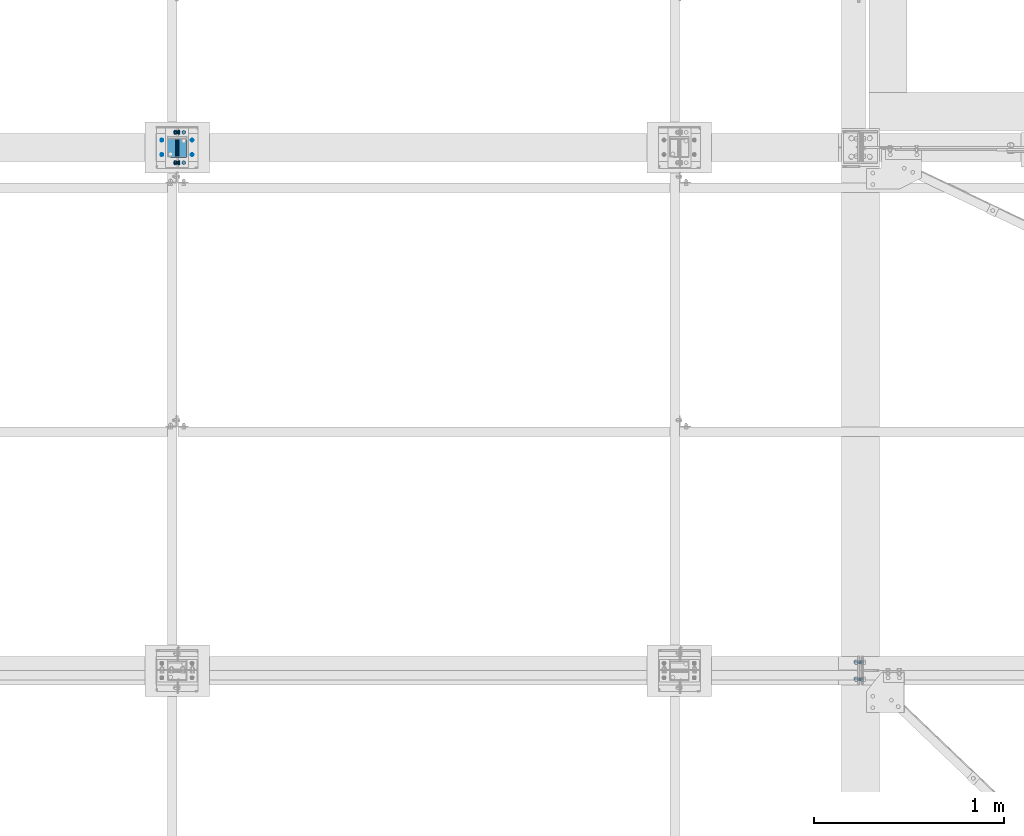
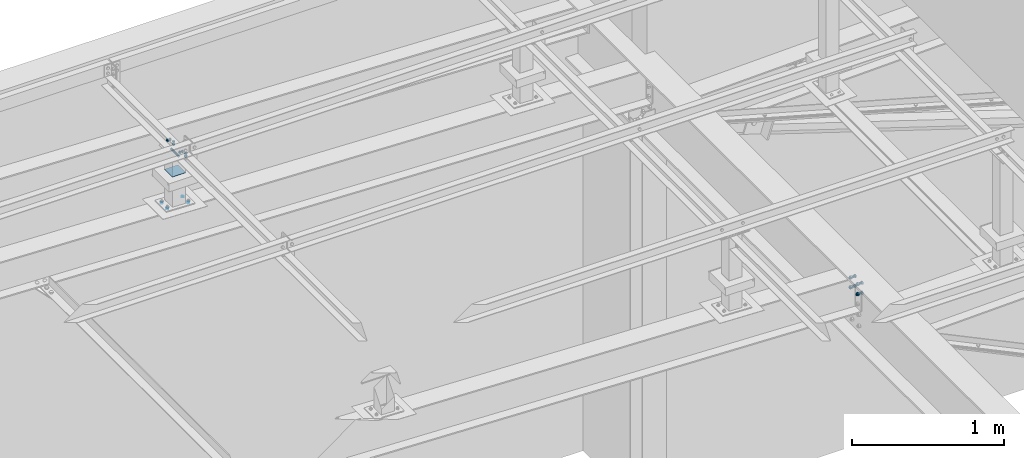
# One storey, part 216 of 3134: 7 mechanical fasteners, 4 elements without a shape of their own.
"""IFC2X3 building model written with IfcOpenShell, lengths in millimetres."""

from ifc_helpers import new_model, si_unit, frame, origin_with_axes, place, context, subcontext, project, spatial, faceted_brep, source, transform, mapped, material, type_object, element, aggregate, save


model = new_model("IFC2X3")

# Units and contexts
model_context = context("Model", 3, precision=1e-05, world=origin_with_axes())
body_context = subcontext(model_context, "Body", "Model", "MODEL_VIEW")
ifc_project = project(units=[si_unit("LENGTHUNIT", "METRE", prefix="MILLI"), si_unit("AREAUNIT", "SQUARE_METRE"), si_unit("VOLUMEUNIT", "CUBIC_METRE"), si_unit("MASSUNIT", "GRAM", prefix="KILO"), si_unit("TIMEUNIT", "SECOND"), si_unit("PLANEANGLEUNIT", "RADIAN"), si_unit("SOLIDANGLEUNIT", "STERADIAN"), si_unit("THERMODYNAMICTEMPERATUREUNIT", "DEGREE_CELSIUS"), si_unit("LUMINOUSINTENSITYUNIT", "LUMEN")], contexts=[model_context])

# Site, building, storey
site_placement = place(None, origin_with_axes())
site = spatial("IfcSite", under=ifc_project, at=site_placement, CompositionType="ELEMENT")
building_placement = place(site_placement, origin_with_axes())
building = spatial("IfcBuilding", under=site, at=building_placement, Name="Undefined", CompositionType="ELEMENT")
storey_placement = place(building_placement, origin_with_axes())
storey = spatial("IfcBuildingStorey", under=building, at=storey_placement, Name="Undefined", CompositionType="ELEMENT", Elevation=0.0)

# Assembly, mechanical fastener
assembly_1_placement = place(storey_placement, origin_with_axes())
assembly_1 = element("IfcElementAssembly", 1, at=assembly_1_placement, inside=storey, AssemblyPlace="NOTDEFINED", PredefinedType="RIGID_FRAME")
ifc_material_1 = material(Name="8.8")
mechanical_fastener_type = type_object("IfcMechanicalFastenerType", Name="Bolt assembly")
shared_shape_1 = source(origin_with_axes(), body_context, "Body", "Brep", [
    faceted_brep([(10.9696551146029, -14.0, 0.0), (5.48482755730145, -14.0, 9.5), (-5.48482755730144, -14.0, 9.5), (-10.9696551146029, -14.0, 1.34339530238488e-15), (-5.48482755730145, -14.0, -9.5), (5.48482755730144, -14.0, -9.50000000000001), (5.48482755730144, -6.0, -9.50000000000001), (-5.48482755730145, -6.0, -9.5), (-10.9696551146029, -6.0, 1.34339530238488e-15), (-5.48482755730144, -6.0, 9.5), (5.48482755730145, -6.0, 9.5), (10.9696551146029, -6.0, 0.0), (6.0, -6.0, 0.0), (5.19615242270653, -6.0, 3.00000000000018), (2.99999999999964, -6.0, 5.19615242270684), (-6.21801588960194e-13, -6.0, 6.0), (-3.00000000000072, -6.0, 5.19615242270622), (-5.19615242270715, -6.0, 2.9999999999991), (-6.0, -6.0, -1.24360317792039e-12), (-5.19615242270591, -6.0, -3.00000000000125), (-2.99999999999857, -6.0, -5.19615242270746), (1.85874342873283e-12, -6.0, -6.0), (3.00000000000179, -6.0, -5.1961524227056), (5.19615242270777, -6.0, -2.99999999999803), (5.19615242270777, 24.0, -2.99999999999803), (3.00000000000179, 24.0, -5.1961524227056), (1.85874342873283e-12, 24.0, -6.0), (-2.99999999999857, 24.0, -5.19615242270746), (-5.19615242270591, 24.0, -3.00000000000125), (-6.0, 24.0, -1.24360317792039e-12), (-5.19615242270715, 24.0, 2.9999999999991), (-3.00000000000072, 24.0, 5.19615242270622), (-6.21801588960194e-13, 24.0, 6.0), (2.99999999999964, 24.0, 5.19615242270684), (5.19615242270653, 24.0, 3.00000000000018), (6.0, 24.0, 0.0), (10.9696551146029, 6.00000000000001, 0.0), (5.48482755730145, 6.00000000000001, 9.5), (-5.48482755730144, 6.00000000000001, 9.5), (-10.9696551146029, 6.00000000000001, 1.34339530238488e-15), (-5.48482755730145, 6.00000000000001, -9.5), (5.48482755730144, 6.00000000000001, -9.50000000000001), (5.48482755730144, 16.0, -9.50000000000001), (-5.48482755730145, 16.0, -9.5), (-10.9696551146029, 16.0, 1.34339530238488e-15), (-5.48482755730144, 16.0, 9.5), (5.48482755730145, 16.0, 9.5), (10.9696551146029, 16.0, 0.0)], [[[0, 1, 2, 3, 4, 5]], [[6, 7, 8, 9, 10, 11]], [[0, 11, 10, 1]], [[1, 10, 9, 2]], [[2, 9, 8, 3]], [[3, 8, 7, 4]], [[4, 7, 6, 5]], [[5, 6, 11, 0]], [[12, 13, 14, 15, 16, 17, 18, 19, 20, 21, 22, 23]], [[24, 25, 26, 27, 28, 29, 30, 31, 32, 33, 34, 35]], [[12, 35, 34, 13]], [[13, 34, 33, 14]], [[14, 33, 32, 15]], [[15, 32, 31, 16]], [[16, 31, 30, 17]], [[17, 30, 29, 18]], [[18, 29, 28, 19]], [[19, 28, 27, 20]], [[20, 27, 26, 21]], [[21, 26, 25, 22]], [[22, 25, 24, 23]], [[23, 24, 35, 12]], [[36, 37, 38, 39, 40, 41]], [[42, 43, 44, 45, 46, 47]], [[36, 47, 46, 37]], [[37, 46, 45, 38]], [[38, 45, 44, 39]], [[39, 44, 43, 40]], [[40, 43, 42, 41]], [[41, 42, 47, 36]]]),
    faceted_brep([(7.0, -5.9, 0.0), (6.06217782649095, -5.9, 3.50000000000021), (3.49999999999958, -5.9, 6.06217782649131), (-7.25435187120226e-13, -5.9, 7.0), (-3.50000000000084, -5.9, 6.06217782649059), (-6.06217782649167, -5.9, 3.49999999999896), (-7.0, -5.9, -1.45087037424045e-12), (-6.06217782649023, -5.9, -3.50000000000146), (-3.49999999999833, -5.9, -6.06217782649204), (2.1685340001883e-12, -5.9, -7.0), (3.50000000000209, -5.9, -6.06217782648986), (6.0621778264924, -5.9, -3.4999999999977), (6.0621778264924, 0.0999999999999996, -3.4999999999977), (3.50000000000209, 0.0999999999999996, -6.06217782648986), (2.1685340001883e-12, 0.0999999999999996, -7.0), (-3.49999999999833, 0.0999999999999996, -6.06217782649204), (-6.06217782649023, 0.0999999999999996, -3.50000000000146), (-7.0, 0.0999999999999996, -1.45087037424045e-12), (-6.06217782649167, 0.0999999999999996, 3.49999999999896), (-3.50000000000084, 0.0999999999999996, 6.06217782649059), (-7.25435187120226e-13, 0.0999999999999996, 7.0), (3.49999999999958, 0.0999999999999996, 6.06217782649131), (6.06217782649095, 0.0999999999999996, 3.50000000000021), (7.0, 0.0999999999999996, 0.0), (7.0, -0.1, 0.0), (6.06217782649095, -0.1, 3.50000000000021), (3.49999999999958, -0.1, 6.06217782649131), (-7.25435187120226e-13, -0.1, 7.0), (-3.50000000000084, -0.1, 6.06217782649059), (-6.06217782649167, -0.1, 3.49999999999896), (-7.0, -0.1, -1.45087037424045e-12), (-6.06217782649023, -0.1, -3.50000000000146), (-3.49999999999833, -0.1, -6.06217782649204), (2.1685340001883e-12, -0.1, -7.0), (3.50000000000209, -0.1, -6.06217782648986), (6.0621778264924, -0.1, -3.4999999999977), (6.0621778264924, 6.00000000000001, -3.4999999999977), (3.50000000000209, 6.00000000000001, -6.06217782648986), (2.1685340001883e-12, 6.00000000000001, -7.0), (-3.49999999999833, 6.00000000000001, -6.06217782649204), (-6.06217782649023, 6.00000000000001, -3.50000000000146), (-7.0, 6.00000000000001, -1.45087037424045e-12), (-6.06217782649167, 6.00000000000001, 3.49999999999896), (-3.50000000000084, 6.00000000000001, 6.06217782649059), (-7.25435187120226e-13, 6.00000000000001, 7.0), (3.49999999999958, 6.00000000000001, 6.06217782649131), (6.06217782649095, 6.00000000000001, 3.50000000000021), (7.0, 6.00000000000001, 0.0)], [[[0, 1, 2, 3, 4, 5, 6, 7, 8, 9, 10, 11]], [[12, 13, 14, 15, 16, 17, 18, 19, 20, 21, 22, 23]], [[0, 23, 22, 1]], [[1, 22, 21, 2]], [[2, 21, 20, 3]], [[3, 20, 19, 4]], [[4, 19, 18, 5]], [[5, 18, 17, 6]], [[6, 17, 16, 7]], [[7, 16, 15, 8]], [[8, 15, 14, 9]], [[9, 14, 13, 10]], [[10, 13, 12, 11]], [[11, 12, 23, 0]], [[24, 25, 26, 27, 28, 29, 30, 31, 32, 33, 34, 35]], [[36, 37, 38, 39, 40, 41, 42, 43, 44, 45, 46, 47]], [[24, 47, 46, 25]], [[25, 46, 45, 26]], [[26, 45, 44, 27]], [[27, 44, 43, 28]], [[28, 43, 42, 29]], [[29, 42, 41, 30]], [[30, 41, 40, 31]], [[31, 40, 39, 32]], [[32, 39, 38, 33]], [[33, 38, 37, 34]], [[34, 37, 36, 35]], [[35, 36, 47, 24]]]),
])
mechanical_fastener_1_placement = place(assembly_1_placement, frame((5726.67, 48445.0, 4265.0), z_axis=(-1.0, 0.0, 0.0), x_axis=(0.0, 1.0, 0.0)))
mechanical_fastener_1 = element("IfcMechanicalFastener", 2, at=mechanical_fastener_1_placement, type_object=mechanical_fastener_type, material=ifc_material_1, Name="Bolt assembly", NominalDiameter=12.0, NominalLength=30.0, context=body_context, shape_type="MappedRepresentation", body=[
    mapped(shared_shape_1, transform((0.0, 0.0, 0.0))),
    mapped(shared_shape_1, transform((160.0, 0.0, 0.0))),
])

assembly_2_placement = place(storey_placement, origin_with_axes())
assembly_2 = element("IfcElementAssembly", 3, at=assembly_2_placement, inside=storey, AssemblyPlace="NOTDEFINED", PredefinedType="RIGID_FRAME")
shared_shape_2 = source(origin_with_axes(), body_context, "Body", "Brep", [
    faceted_brep([(10.9696551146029, -14.0, 0.0), (5.48482755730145, -14.0, 9.5), (-5.48482755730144, -14.0, 9.5), (-10.9696551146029, -14.0, 1.34339530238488e-15), (-5.48482755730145, -14.0, -9.5), (5.48482755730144, -14.0, -9.50000000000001), (5.48482755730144, -6.0, -9.50000000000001), (-5.48482755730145, -6.0, -9.5), (-10.9696551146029, -6.0, 1.34339530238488e-15), (-5.48482755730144, -6.0, 9.5), (5.48482755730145, -6.0, 9.5), (10.9696551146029, -6.0, 0.0), (6.0, -6.0, 0.0), (5.19615242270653, -6.0, 3.00000000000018), (2.99999999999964, -6.0, 5.19615242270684), (-6.21801588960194e-13, -6.0, 6.0), (-3.00000000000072, -6.0, 5.19615242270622), (-5.19615242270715, -6.0, 2.9999999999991), (-6.0, -6.0, -1.24360317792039e-12), (-5.19615242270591, -6.0, -3.00000000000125), (-2.99999999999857, -6.0, -5.19615242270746), (1.85874342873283e-12, -6.0, -6.0), (3.00000000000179, -6.0, -5.1961524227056), (5.19615242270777, -6.0, -2.99999999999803), (5.19615242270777, 19.0, -2.99999999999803), (3.00000000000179, 19.0, -5.1961524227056), (1.85874342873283e-12, 19.0, -6.0), (-2.99999999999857, 19.0, -5.19615242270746), (-5.19615242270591, 19.0, -3.00000000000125), (-6.0, 19.0, -1.24360317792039e-12), (-5.19615242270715, 19.0, 2.9999999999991), (-3.00000000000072, 19.0, 5.19615242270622), (-6.21801588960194e-13, 19.0, 6.0), (2.99999999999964, 19.0, 5.19615242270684), (5.19615242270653, 19.0, 3.00000000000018), (6.0, 19.0, 0.0), (10.9696551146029, 4.00000000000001, 0.0), (5.48482755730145, 4.00000000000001, 9.5), (-5.48482755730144, 4.00000000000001, 9.5), (-10.9696551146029, 4.00000000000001, 1.34339530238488e-15), (-5.48482755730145, 4.00000000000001, -9.5), (5.48482755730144, 4.00000000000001, -9.50000000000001), (5.48482755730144, 14.0, -9.50000000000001), (-5.48482755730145, 14.0, -9.5), (-10.9696551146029, 14.0, 1.34339530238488e-15), (-5.48482755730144, 14.0, 9.5), (5.48482755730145, 14.0, 9.5), (10.9696551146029, 14.0, 0.0)], [[[0, 1, 2, 3, 4, 5]], [[6, 7, 8, 9, 10, 11]], [[0, 11, 10, 1]], [[1, 10, 9, 2]], [[2, 9, 8, 3]], [[3, 8, 7, 4]], [[4, 7, 6, 5]], [[5, 6, 11, 0]], [[12, 13, 14, 15, 16, 17, 18, 19, 20, 21, 22, 23]], [[24, 25, 26, 27, 28, 29, 30, 31, 32, 33, 34, 35]], [[12, 35, 34, 13]], [[13, 34, 33, 14]], [[14, 33, 32, 15]], [[15, 32, 31, 16]], [[16, 31, 30, 17]], [[17, 30, 29, 18]], [[18, 29, 28, 19]], [[19, 28, 27, 20]], [[20, 27, 26, 21]], [[21, 26, 25, 22]], [[22, 25, 24, 23]], [[23, 24, 35, 12]], [[36, 37, 38, 39, 40, 41]], [[42, 43, 44, 45, 46, 47]], [[36, 47, 46, 37]], [[37, 46, 45, 38]], [[38, 45, 44, 39]], [[39, 44, 43, 40]], [[40, 43, 42, 41]], [[41, 42, 47, 36]]]),
    faceted_brep([(7.0, -0.1, 0.0), (6.06217782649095, -0.1, 3.50000000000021), (3.49999999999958, -0.1, 6.06217782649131), (-7.25435187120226e-13, -0.1, 7.0), (-3.50000000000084, -0.1, 6.06217782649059), (-6.06217782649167, -0.1, 3.49999999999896), (-7.0, -0.1, -1.45087037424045e-12), (-6.06217782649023, -0.1, -3.50000000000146), (-3.49999999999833, -0.1, -6.06217782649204), (2.1685340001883e-12, -0.1, -7.0), (3.50000000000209, -0.1, -6.06217782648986), (6.0621778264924, -0.1, -3.4999999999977), (6.0621778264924, 4.00000000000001, -3.4999999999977), (3.50000000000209, 4.00000000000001, -6.06217782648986), (2.1685340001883e-12, 4.00000000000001, -7.0), (-3.49999999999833, 4.00000000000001, -6.06217782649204), (-6.06217782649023, 4.00000000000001, -3.50000000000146), (-7.0, 4.00000000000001, -1.45087037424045e-12), (-6.06217782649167, 4.00000000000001, 3.49999999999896), (-3.50000000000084, 4.00000000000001, 6.06217782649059), (-7.25435187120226e-13, 4.00000000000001, 7.0), (3.49999999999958, 4.00000000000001, 6.06217782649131), (6.06217782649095, 4.00000000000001, 3.50000000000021), (7.0, 4.00000000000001, 0.0), (7.0, -5.9, 0.0), (6.06217782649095, -5.9, 3.50000000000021), (3.49999999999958, -5.9, 6.06217782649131), (-7.25435187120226e-13, -5.9, 7.0), (-3.50000000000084, -5.9, 6.06217782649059), (-6.06217782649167, -5.9, 3.49999999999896), (-7.0, -5.9, -1.45087037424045e-12), (-6.06217782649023, -5.9, -3.50000000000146), (-3.49999999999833, -5.9, -6.06217782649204), (2.1685340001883e-12, -5.9, -7.0), (3.50000000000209, -5.9, -6.06217782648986), (6.0621778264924, -5.9, -3.4999999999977), (6.0621778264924, 0.0999999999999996, -3.4999999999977), (3.50000000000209, 0.0999999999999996, -6.06217782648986), (2.1685340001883e-12, 0.0999999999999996, -7.0), (-3.49999999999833, 0.0999999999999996, -6.06217782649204), (-6.06217782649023, 0.0999999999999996, -3.50000000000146), (-7.0, 0.0999999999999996, -1.45087037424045e-12), (-6.06217782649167, 0.0999999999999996, 3.49999999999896), (-3.50000000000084, 0.0999999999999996, 6.06217782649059), (-7.25435187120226e-13, 0.0999999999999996, 7.0), (3.49999999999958, 0.0999999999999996, 6.06217782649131), (6.06217782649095, 0.0999999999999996, 3.50000000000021), (7.0, 0.0999999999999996, 0.0)], [[[0, 1, 2, 3, 4, 5, 6, 7, 8, 9, 10, 11]], [[12, 13, 14, 15, 16, 17, 18, 19, 20, 21, 22, 23]], [[0, 23, 22, 1]], [[1, 22, 21, 2]], [[2, 21, 20, 3]], [[3, 20, 19, 4]], [[4, 19, 18, 5]], [[5, 18, 17, 6]], [[6, 17, 16, 7]], [[7, 16, 15, 8]], [[8, 15, 14, 9]], [[9, 14, 13, 10]], [[10, 13, 12, 11]], [[11, 12, 23, 0]], [[24, 25, 26, 27, 28, 29, 30, 31, 32, 33, 34, 35]], [[36, 37, 38, 39, 40, 41, 42, 43, 44, 45, 46, 47]], [[24, 47, 46, 25]], [[25, 46, 45, 26]], [[26, 45, 44, 27]], [[27, 44, 43, 28]], [[28, 43, 42, 29]], [[29, 42, 41, 30]], [[30, 41, 40, 31]], [[31, 40, 39, 32]], [[32, 39, 38, 33]], [[33, 38, 37, 34]], [[34, 37, 36, 35]], [[35, 36, 47, 24]]]),
])
mechanical_fastener_2_placement = place(assembly_2_placement, frame((5691.67, 48445.0, 4300.0), z_axis=(0.0, 0.0, 1.0), x_axis=(0.0, 1.0, 0.0)))
mechanical_fastener_2 = element("IfcMechanicalFastener", 4, at=mechanical_fastener_2_placement, type_object=mechanical_fastener_type, material=ifc_material_1, Name="Bolt assembly", NominalDiameter=12.0, NominalLength=25.0, context=body_context, shape_type="MappedRepresentation", body=[
    mapped(shared_shape_2, transform((0.0, 0.0, 0.0))),
    mapped(shared_shape_2, transform((160.0, 0.0, 0.0))),
])
aggregate(assembly_2, [mechanical_fastener_2])

# Assembly, mechanical fasteners
assembly_3_placement = place(storey_placement, origin_with_axes())
assembly_3 = element("IfcElementAssembly", 5, at=assembly_3_placement, inside=storey, Name="IPE500", AssemblyPlace="NOTDEFINED", PredefinedType="RIGID_FRAME")
shared_shape_3 = source(origin_with_axes(), body_context, "Body", "Brep", [
    faceted_brep([(13.856406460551, 0.0, 0.0), (6.92820323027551, 0.0, 12.0), (-6.92820323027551, 0.0, 12.0), (-13.856406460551, 0.0, 1.69692038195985e-15), (-6.92820323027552, 0.0, -12.0), (6.9282032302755, 0.0, -12.0), (6.9282032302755, 9.99999995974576, -12.0), (-6.92820323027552, 9.99999995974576, -12.0), (-13.856406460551, 9.99999995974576, 1.69692038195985e-15), (-6.92820323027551, 9.99999995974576, 12.0), (6.92820323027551, 9.99999995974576, 12.0), (13.856406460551, 9.99999995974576, 0.0), (8.0, 9.99999995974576, 0.0), (6.92820323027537, 9.99999995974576, 4.00000000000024), (3.99999999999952, 9.99999995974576, 6.92820323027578), (-8.29068785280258e-13, 9.99999995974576, 8.0), (-4.00000000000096, 9.99999995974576, 6.92820323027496), (-6.9282032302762, 9.99999995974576, 3.99999999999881), (-8.0, 9.99999995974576, -1.65813757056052e-12), (-6.92820323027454, 9.99999995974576, -4.00000000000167), (-3.99999999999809, 9.99999995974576, -6.92820323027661), (2.47832457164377e-12, 9.99999995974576, -8.0), (4.00000000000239, 9.99999995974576, -6.92820323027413), (6.92820323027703, 9.99999995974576, -3.99999999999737), (6.92820323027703, 49.9999999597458, -3.99999999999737), (4.00000000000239, 49.9999999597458, -6.92820323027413), (2.47832457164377e-12, 49.9999999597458, -8.0), (-3.99999999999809, 49.9999999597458, -6.92820323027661), (-6.92820323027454, 49.9999999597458, -4.00000000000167), (-8.0, 49.9999999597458, -1.65813757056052e-12), (-6.9282032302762, 49.9999999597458, 3.99999999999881), (-4.00000000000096, 49.9999999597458, 6.92820323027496), (-8.29068785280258e-13, 49.9999999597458, 8.0), (3.99999999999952, 49.9999999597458, 6.92820323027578), (6.92820323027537, 49.9999999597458, 4.00000000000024), (8.0, 49.9999999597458, 0.0), (13.856406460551, 30.1999997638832, 0.0), (6.92820323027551, 30.1999997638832, 12.0), (-6.92820323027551, 30.1999997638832, 12.0), (-13.856406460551, 30.1999997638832, 1.69692038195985e-15), (-6.92820323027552, 30.1999997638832, -12.0), (6.9282032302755, 30.1999997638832, -12.0), (6.9282032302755, 43.1999997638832, -12.0), (-6.92820323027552, 43.1999997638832, -12.0), (-13.856406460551, 43.1999997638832, 1.69692038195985e-15), (-6.92820323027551, 43.1999997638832, 12.0), (6.92820323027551, 43.1999997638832, 12.0), (13.856406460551, 43.1999997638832, 0.0)], [[[0, 1, 2, 3, 4, 5]], [[6, 7, 8, 9, 10, 11]], [[0, 11, 10, 1]], [[1, 10, 9, 2]], [[2, 9, 8, 3]], [[3, 8, 7, 4]], [[4, 7, 6, 5]], [[5, 6, 11, 0]], [[12, 13, 14, 15, 16, 17, 18, 19, 20, 21, 22, 23]], [[24, 25, 26, 27, 28, 29, 30, 31, 32, 33, 34, 35]], [[12, 35, 34, 13]], [[13, 34, 33, 14]], [[14, 33, 32, 15]], [[15, 32, 31, 16]], [[16, 31, 30, 17]], [[17, 30, 29, 18]], [[18, 29, 28, 19]], [[19, 28, 27, 20]], [[20, 27, 26, 21]], [[21, 26, 25, 22]], [[22, 25, 24, 23]], [[23, 24, 35, 12]], [[36, 37, 38, 39, 40, 41]], [[42, 43, 44, 45, 46, 47]], [[36, 47, 46, 37]], [[37, 46, 45, 38]], [[38, 45, 44, 39]], [[39, 44, 43, 40]], [[40, 43, 42, 41]], [[41, 42, 47, 36]]]),
    faceted_brep([(9.0, 20.0999997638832, 0.0), (7.79422863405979, 20.0999997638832, 4.50000000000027), (4.49999999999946, 20.0999997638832, 7.79422863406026), (-9.3270238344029e-13, 20.0999997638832, 9.0), (-4.50000000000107, 20.0999997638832, 7.79422863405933), (-7.79422863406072, 20.0999997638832, 4.49999999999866), (-9.0, 20.0999997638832, -1.86540476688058e-12), (-7.79422863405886, 20.0999997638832, -4.50000000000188), (-4.49999999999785, 20.0999997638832, -7.79422863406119), (2.78811514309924e-12, 20.0999997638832, -9.0), (4.50000000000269, 20.0999997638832, -7.7942286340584), (7.79422863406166, 20.0999997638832, -4.49999999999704), (7.79422863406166, 30.1999997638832, -4.49999999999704), (4.50000000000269, 30.1999997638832, -7.7942286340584), (2.78811514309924e-12, 30.1999997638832, -9.0), (-4.49999999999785, 30.1999997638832, -7.79422863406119), (-7.79422863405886, 30.1999997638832, -4.50000000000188), (-9.0, 30.1999997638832, -1.86540476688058e-12), (-7.79422863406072, 30.1999997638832, 4.49999999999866), (-4.50000000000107, 30.1999997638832, 7.79422863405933), (-9.3270238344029e-13, 30.1999997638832, 9.0), (4.49999999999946, 30.1999997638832, 7.79422863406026), (7.79422863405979, 30.1999997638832, 4.50000000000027), (9.0, 30.1999997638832, 0.0), (9.0, 10.1000023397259, 0.0), (7.79422863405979, 10.1000023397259, 4.50000000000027), (4.49999999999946, 10.1000023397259, 7.79422863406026), (-9.3270238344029e-13, 10.1000023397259, 9.0), (-4.50000000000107, 10.1000023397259, 7.79422863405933), (-7.79422863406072, 10.1000023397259, 4.49999999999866), (-9.0, 10.1000023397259, -1.86540476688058e-12), (-7.79422863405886, 10.1000023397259, -4.50000000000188), (-4.49999999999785, 10.1000023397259, -7.79422863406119), (2.78811514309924e-12, 10.1000023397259, -9.0), (4.50000000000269, 10.1000023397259, -7.7942286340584), (7.79422863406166, 10.1000023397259, -4.49999999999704), (7.79422863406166, 20.2999997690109, -4.49999999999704), (4.50000000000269, 20.2999997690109, -7.7942286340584), (2.78811514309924e-12, 20.2999997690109, -9.0), (-4.49999999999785, 20.2999997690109, -7.79422863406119), (-7.79422863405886, 20.2999997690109, -4.50000000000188), (-9.0, 20.2999997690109, -1.86540476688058e-12), (-7.79422863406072, 20.2999997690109, 4.49999999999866), (-4.50000000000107, 20.2999997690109, 7.79422863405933), (-9.3270238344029e-13, 20.2999997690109, 9.0), (4.49999999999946, 20.2999997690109, 7.79422863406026), (7.79422863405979, 20.2999997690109, 4.50000000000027), (9.0, 20.2999997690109, 0.0)], [[[0, 1, 2, 3, 4, 5, 6, 7, 8, 9, 10, 11]], [[12, 13, 14, 15, 16, 17, 18, 19, 20, 21, 22, 23]], [[0, 23, 22, 1]], [[1, 22, 21, 2]], [[2, 21, 20, 3]], [[3, 20, 19, 4]], [[4, 19, 18, 5]], [[5, 18, 17, 6]], [[6, 17, 16, 7]], [[7, 16, 15, 8]], [[8, 15, 14, 9]], [[9, 14, 13, 10]], [[10, 13, 12, 11]], [[11, 12, 23, 0]], [[24, 25, 26, 27, 28, 29, 30, 31, 32, 33, 34, 35]], [[36, 37, 38, 39, 40, 41, 42, 43, 44, 45, 46, 47]], [[24, 47, 46, 25]], [[25, 46, 45, 26]], [[26, 45, 44, 27]], [[27, 44, 43, 28]], [[28, 43, 42, 29]], [[29, 42, 41, 30]], [[30, 41, 40, 31]], [[31, 40, 39, 32]], [[32, 39, 38, 33]], [[33, 38, 37, 34]], [[34, 37, 36, 35]], [[35, 36, 47, 24]]]),
])
mechanical_fastener_3_placement = place(assembly_3_placement, frame((9310.09999986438, 45721.67, 3631.67000001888), z_axis=(0.0, 1.0, 0.0), x_axis=(0.0, 0.0, -1.0)))
mechanical_fastener_3 = element("IfcMechanicalFastener", 6, at=mechanical_fastener_3_placement, type_object=mechanical_fastener_type, material=ifc_material_1, Name="Bolt assembly", NominalDiameter=16.0, NominalLength=40.0, context=body_context, shape_type="MappedRepresentation", body=[
    mapped(shared_shape_3, transform((0.0, 0.0, 0.0))),
    mapped(shared_shape_3, transform((80.0, 0.0, 0.0))),
])
mechanical_fastener_4_placement = place(assembly_3_placement, frame((9310.09999986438, 45811.67, 3631.67000001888), z_axis=(0.0, 1.0, 0.0), x_axis=(0.0, 0.0, -1.0)))
mechanical_fastener_4 = element("IfcMechanicalFastener", 7, at=mechanical_fastener_4_placement, type_object=mechanical_fastener_type, material=ifc_material_1, Name="Bolt assembly", NominalDiameter=16.0, NominalLength=40.0, context=body_context, shape_type="MappedRepresentation", body=[
    mapped(shared_shape_3, transform((0.0, 0.0, 0.0))),
    mapped(shared_shape_3, transform((80.0, 0.0, 0.0))),
])
aggregate(assembly_3, [mechanical_fastener_3, mechanical_fastener_4])

# Assembly, mechanical fastener
assembly_4_placement = place(storey_placement, origin_with_axes())
assembly_4 = element("IfcElementAssembly", 8, at=assembly_4_placement, inside=storey, AssemblyPlace="NOTDEFINED", PredefinedType="RIGID_FRAME")
shared_shape_4 = source(origin_with_axes(), body_context, "Body", "Brep", [
    faceted_brep([(7.0, 13.0000253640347, 0.0), (6.06217782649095, 13.0000253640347, 3.50000000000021), (3.49999999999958, 13.0000253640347, 6.06217782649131), (-7.25435187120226e-13, 13.0000253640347, 7.0), (-3.50000000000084, 13.0000253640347, 6.06217782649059), (-6.06217782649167, 13.0000253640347, 3.49999999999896), (-7.0, 13.0000253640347, -1.45087037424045e-12), (-6.06217782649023, 13.0000253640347, -3.50000000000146), (-3.49999999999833, 13.0000253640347, -6.06217782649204), (2.1685340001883e-12, 13.0000253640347, -7.0), (3.50000000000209, 13.0000253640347, -6.06217782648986), (6.0621778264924, 13.0000253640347, -3.4999999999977), (6.0621778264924, 15.0999999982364, -3.4999999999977), (3.50000000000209, 15.0999999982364, -6.06217782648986), (2.1685340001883e-12, 15.0999999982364, -7.0), (-3.49999999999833, 15.0999999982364, -6.06217782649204), (-6.06217782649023, 15.0999999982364, -3.50000000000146), (-7.0, 15.0999999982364, -1.45087037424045e-12), (-6.06217782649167, 15.0999999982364, 3.49999999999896), (-3.50000000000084, 15.0999999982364, 6.06217782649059), (-7.25435187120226e-13, 15.0999999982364, 7.0), (3.49999999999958, 15.0999999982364, 6.06217782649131), (6.06217782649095, 15.0999999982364, 3.50000000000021), (7.0, 15.0999999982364, 0.0)], [[[0, 1, 2, 3, 4, 5, 6, 7, 8, 9, 10, 11]], [[12, 13, 14, 15, 16, 17, 18, 19, 20, 21, 22, 23]], [[0, 23, 22, 1]], [[1, 22, 21, 2]], [[2, 21, 20, 3]], [[3, 20, 19, 4]], [[4, 19, 18, 5]], [[5, 18, 17, 6]], [[6, 17, 16, 7]], [[7, 16, 15, 8]], [[8, 15, 14, 9]], [[9, 14, 13, 10]], [[10, 13, 12, 11]], [[11, 12, 23, 0]]]),
])
mechanical_fastener_5_placement = place(assembly_4_placement, frame((5690.86475070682, 48562.9999999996, 3827.79222028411), z_axis=(-0.999387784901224, 0.0, 0.0349865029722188), x_axis=(0.0, -1.0, 0.0)))
mechanical_fastener_5 = element("IfcMechanicalFastener", 9, at=mechanical_fastener_5_placement, type_object=mechanical_fastener_type, material=ifc_material_1, Name="Bolt assembly", NominalDiameter=12.0, NominalLength=2.0, context=body_context, shape_type="MappedRepresentation", body=[
    mapped(shared_shape_4, transform((0.0, -5.32963895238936e-10, -79.9999999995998))),
    mapped(shared_shape_4, transform((76.0, -5.32963895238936e-10, -79.9999999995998))),
    mapped(shared_shape_4, transform((0.0, 5.3114490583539e-10, 79.9999999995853))),
    mapped(shared_shape_4, transform((76.0, 5.3114490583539e-10, 79.9999999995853))),
])
aggregate(assembly_4, [mechanical_fastener_5])

# Mechanical fastener
shared_shape_5 = source(origin_with_axes(), body_context, "Body", "Brep", [
    faceted_brep([(9.0, -50.0, 0.0), (7.79422863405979, -50.0, 4.50000000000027), (4.49999999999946, -50.0, 7.79422863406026), (-9.3270238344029e-13, -50.0, 9.0), (-4.50000000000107, -50.0, 7.79422863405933), (-7.79422863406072, -50.0, 4.49999999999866), (-9.0, -50.0, -1.86540476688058e-12), (-7.79422863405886, -50.0, -4.50000000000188), (-4.49999999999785, -50.0, -7.79422863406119), (2.78811514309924e-12, -50.0, -9.0), (4.50000000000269, -50.0, -7.7942286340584), (7.79422863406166, -50.0, -4.49999999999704), (7.79422863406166, 50.1, -4.49999999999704), (4.50000000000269, 50.1, -7.7942286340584), (2.78811514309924e-12, 50.1, -9.0), (-4.49999999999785, 50.1, -7.79422863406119), (-7.79422863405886, 50.1, -4.50000000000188), (-9.0, 50.1, -1.86540476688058e-12), (-7.79422863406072, 50.1, 4.49999999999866), (-4.50000000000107, 50.1, 7.79422863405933), (-9.3270238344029e-13, 50.1, 9.0), (4.49999999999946, 50.1, 7.79422863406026), (7.79422863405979, 50.1, 4.50000000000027), (9.0, 50.1, 0.0)], [[[0, 1, 2, 3, 4, 5, 6, 7, 8, 9, 10, 11]], [[12, 13, 14, 15, 16, 17, 18, 19, 20, 21, 22, 23]], [[0, 23, 22, 1]], [[1, 22, 21, 2]], [[2, 21, 20, 3]], [[3, 20, 19, 4]], [[4, 19, 18, 5]], [[5, 18, 17, 6]], [[6, 17, 16, 7]], [[7, 16, 15, 8]], [[8, 15, 14, 9]], [[9, 14, 13, 10]], [[10, 13, 12, 11]], [[11, 12, 23, 0]]]),
])
mechanical_fastener_6_placement = place(assembly_1_placement, frame((5691.67, 48525.0, 4245.0), z_axis=(-1.0, 0.0, 0.0), x_axis=(0.0, 0.0, 1.0)))
mechanical_fastener_6 = element("IfcMechanicalFastener", 10, at=mechanical_fastener_6_placement, type_object=mechanical_fastener_type, material=ifc_material_1, Name="Bolt assembly", NominalDiameter=16.0, NominalLength=100.0, context=body_context, shape_type="MappedRepresentation", body=[
    mapped(shared_shape_5, transform((0.0, 0.0, 0.0))),
])

ifc_material_2 = material(Name="6.8")
shared_shape_6 = source(origin_with_axes(), body_context, "Body", "Brep", [
    faceted_brep([(51.5, 1.36424205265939e-12, 50.0), (51.3858192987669, 1.36424205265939e-12, 50.5740251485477), (51.0606601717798, 1.36424205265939e-12, 51.0606601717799), (50.5740251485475, 1.36424205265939e-12, 51.385819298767), (-50.0000000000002, 1.36424205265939e-12, 51.5), (-50.7500000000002, 1.36424205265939e-12, 51.2990381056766), (-51.2990381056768, 1.36424205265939e-12, 50.7499999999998), (-51.5, 1.36424205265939e-12, 49.9999999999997), (-51.5, 1.36424205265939e-12, -50.0000000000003), (-51.2990381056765, 1.36424205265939e-12, -50.7500000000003), (-50.7499999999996, 1.36424205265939e-12, -51.2990381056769), (-49.9999999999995, 1.36424205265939e-12, -51.5), (50.0000000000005, 1.36424205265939e-12, -51.5), (50.7500000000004, 1.36424205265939e-12, -51.2990381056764), (51.2990381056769, 1.36424205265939e-12, -50.7499999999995), (51.5, 1.36424205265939e-12, -49.9999999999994), (51.5, 5.10000000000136, -49.9999999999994), (51.2990381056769, 5.10000000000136, -50.7499999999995), (50.7500000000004, 5.10000000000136, -51.2990381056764), (50.0000000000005, 5.10000000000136, -51.5), (-49.9999999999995, 5.10000000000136, -51.5), (-50.7499999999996, 5.10000000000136, -51.2990381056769), (-51.2990381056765, 5.10000000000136, -50.7500000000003), (-51.5, 5.10000000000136, -50.0000000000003), (-51.5, 5.10000000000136, 49.9999999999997), (-51.2990381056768, 5.10000000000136, 50.7499999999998), (-50.7500000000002, 5.10000000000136, 51.2990381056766), (-50.0000000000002, 5.10000000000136, 51.5), (50.5740251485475, 5.10000000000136, 51.385819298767), (51.0606601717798, 5.10000000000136, 51.0606601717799), (51.3858192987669, 5.10000000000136, 50.5740251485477), (51.5, 5.10000000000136, 50.0)], [[[0, 1, 2, 3, 4, 5, 6, 7, 8, 9, 10, 11, 12, 13, 14, 15]], [[16, 17, 18, 19, 20, 21, 22, 23, 24, 25, 26, 27, 28, 29, 30, 31]], [[0, 31, 30, 1]], [[1, 30, 29, 2]], [[2, 29, 28, 3]], [[3, 28, 27, 4]], [[4, 27, 26, 5]], [[5, 26, 25, 6]], [[6, 25, 24, 7]], [[7, 24, 23, 8]], [[8, 23, 22, 9]], [[9, 22, 21, 10]], [[10, 21, 20, 11]], [[11, 20, 19, 12]], [[12, 19, 18, 13]], [[13, 18, 17, 14]], [[14, 17, 16, 15]], [[15, 16, 31, 0]]]),
])
mechanical_fastener_7_placement = place(assembly_1_placement, frame((5691.66156415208, 48525.0, 4097.5922136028), z_axis=(0.0, -1.0, 0.0), x_axis=(-1.0, 0.0, 0.0)))
mechanical_fastener_7 = element("IfcMechanicalFastener", 11, at=mechanical_fastener_7_placement, type_object=mechanical_fastener_type, material=ifc_material_2, Name="Bolt assembly", NominalDiameter=10.0, NominalLength=5.0, context=body_context, shape_type="MappedRepresentation", body=[
    mapped(shared_shape_6, transform((0.0, 0.0, 0.0))),
])

aggregate(assembly_1, [mechanical_fastener_1, mechanical_fastener_6, mechanical_fastener_7])

save(model, "model.ifc")
